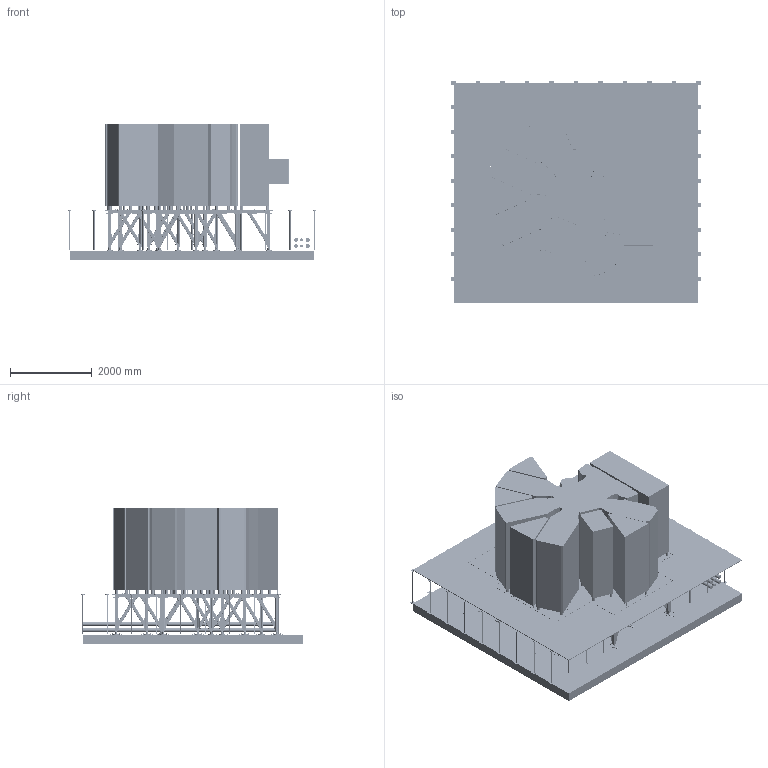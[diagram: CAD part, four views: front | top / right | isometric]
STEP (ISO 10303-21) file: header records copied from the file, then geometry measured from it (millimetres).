
FILE_DESCRIPTION (( 'STEP AP214' ), '1' );
FILE_NAME ('CANEL300A ENSEMBLE B.STEP', '2024-07-19T07:41:44', ( '' ), ( '' ), 'SwSTEP 2.0', 'SolidWorks 2017', '' );
FILE_SCHEMA (( 'AUTOMOTIVE_DESIGN' ));
Length unit declared in the file: millimetre
Products named in the file (39): PIC-CANEL300A-03_INOX DWG; PIC-CANEL-05_1<Brut d''usinage>; CANEL300A FP; PIC-CANEL-05_1; CANEL300A; Z_Screw_H_SCREW H M10x25-25; PIC-CANEL-08_1; Z-Washer_WASHER M 10; PIC-CANEL-05_3; Z-ecrou_m36; Z-TIGE-FILETEE-M12_M12x200; PIC-CANEL-05_2<Brut d''usinage>; Z-Vis H M12_vis H M12-50; PIC-CANEL-05_3<Brut d''usinage>; PIC-CANEL-06_1<Brut d''usinage>; Z-TIGE-FILETEE-M12_m12x120; PIC-CANEL-05_2; z_NUT_H_NUT H M 12; PIC-CANEL-08; PIC-CANEL-07; PIC-CANEL-09_D‚faut<Brut d''usinage>; CANEL300A DALLE BETON1; Z-m36x140; CANEL300A TUBE1; Z-M10 assy-; CENTRAGE 08; Z-M12 ASSY_21.5; z_Washer_WASHER M 12; CANEL300A ENSEMBLE B; CANEL BLOC; Z-M12 ASSY_160; Z-M12 ASSY_88; PIC-CANEL300A-02_D‚faut<Brut d''usinage>; Z-Vis H M12_vis H M12-120; PIC-CANEL300A-03; CANEL300A-ESQ; Z-M12 ASSY_95.5; PIC-CANEL-07_DWG; Hilti Cheville M12
Assembly tree (353 placements, depth 4):
  CANEL300A ENSEMBLE B
    CANEL300A FP
    CANEL300A DALLE BETON1
    CANEL300A TUBE1
    CANEL300A-ESQ
    CANEL BLOC
    CANEL300A
    PIC-CANEL300A-02_D‚faut<Brut d''usinage>
    PIC-CANEL300A-03
    PIC-CANEL-05_2  x11
      PIC-CANEL-05_1<Brut d''usinage>
      Z-M10 assy-
        Z_Screw_H_SCREW H M10x25-25
        Z-Washer_WASHER M 10
      PIC-CANEL-06_1<Brut d''usinage>
      PIC-CANEL-07_DWG
        Z-m36x140
        Z-ecrou_m36
        PIC-CANEL-07
    PIC-CANEL-05_1  x4
      PIC-CANEL-05_2<Brut d''usinage>
      Z-M10 assy-
        Z_Screw_H_SCREW H M10x25-25
        Z-Washer_WASHER M 10
      PIC-CANEL-06_1<Brut d''usinage>
      PIC-CANEL-07_DWG
        Z-m36x140
        Z-ecrou_m36
        PIC-CANEL-07
    PIC-CANEL-05_3  x5
      PIC-CANEL-05_3<Brut d''usinage>
      Z-M10 assy-
        Z_Screw_H_SCREW H M10x25-25
        Z-Washer_WASHER M 10
      PIC-CANEL-06_1<Brut d''usinage>
      PIC-CANEL-07_DWG
        Z-m36x140
        Z-ecrou_m36
        PIC-CANEL-07
    PIC-CANEL-08_1  x18
      Hilti Cheville M12
      CENTRAGE 08
      PIC-CANEL-08
    Z-M12 ASSY_88  x2
      Z-TIGE-FILETEE-M12_m12x120
      z_Washer_WASHER M 12
      z_NUT_H_NUT H M 12
    Z-M12 ASSY_160  x14
      Z-TIGE-FILETEE-M12_M12x200
      z_Washer_WASHER M 12
      z_NUT_H_NUT H M 12
    PIC-CANEL-09_D‚faut<Brut d''usinage>
    Z-M10 assy-  x160
      Z_Screw_H_SCREW H M10x25-25
      Z-Washer_WASHER M 10
    PIC-CANEL300A-03_INOX DWG
    Z-M12 ASSY_21.5  x32
      z_Washer_WASHER M 12
      z_NUT_H_NUT H M 12
      Z-Vis H M12_vis H M12-50
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Bounding box: 6100 x 5450 x 3337.49 mm (x, y, z)
Volume: 27942600329.6 mm3; surface area: 368227444.7 mm2
Topology: 2192 solids, 2192 shells, 28132 faces, 64993 edges, 42016 vertices
Faces by surface type: plane 13202, cylinder 10212, cone 4678, bspline 40
Entity records: 267167 total; most frequent: CARTESIAN_POINT 41321, DIRECTION 40753, ORIENTED_EDGE 37036, EDGE_CURVE 18518, AXIS2_PLACEMENT_3D 14965, VERTEX_POINT 12215, VECTOR 10823, LINE 10823
